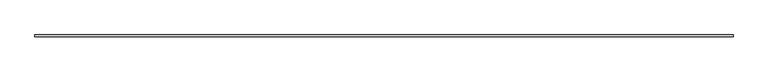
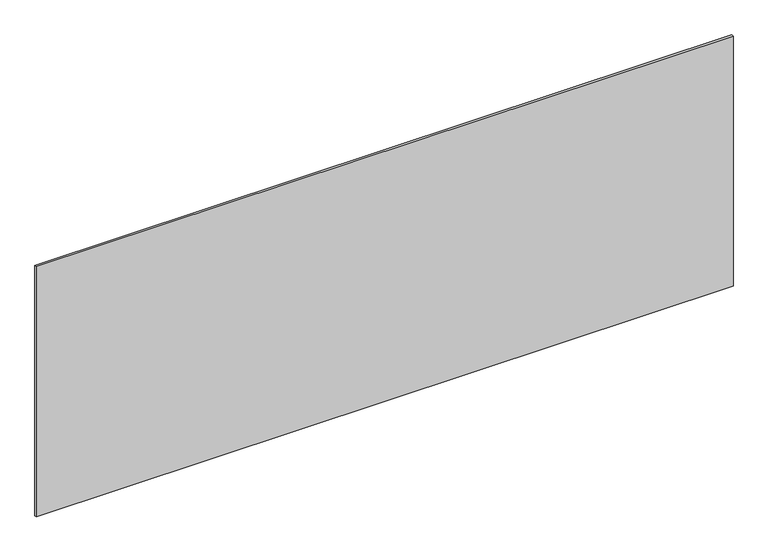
"""IFC4 building model written with IfcOpenShell, lengths in millimetres: plate geometry, システム パネル : 標準."""

from ifc_helpers import new_model, si_unit, origin, origin_with_axes, place, context, project, spatial, polyline, outline, extrude, source, transform, mapped, element, save


def plate_bf9f031a(model_context):
    return source(origin(), model_context, "Body", "SweptSolid", [
        extrude(outline(polyline([(1715.0, -5.0), (-1715.0, -5.0), (-1715.0, 5.0), (1715.0, 5.0), (1715.0, -5.0)])), origin_with_axes(), (0.0, 0.0, 1.0), 1302.8439899),
    ])


if __name__ == "__main__":
    model = new_model("IFC4")
    model_context = context("Model", 3, world=origin())
    ifc_project = project(units=[si_unit("LENGTHUNIT", "METRE", prefix="MILLI")], contexts=[model_context])
    site = spatial("IfcSite", under=ifc_project)
    building = spatial("IfcBuilding", under=site)
    placement = place(None, origin())
    plate_shape = plate_bf9f031a(model_context)
    element("IfcPlate", 1, ObjectType="システム パネル : 標準", at=placement, inside=building, context=model_context, shape_type="MappedRepresentation", body=[
        mapped(plate_shape, transform((0.0, 0.0, 0.0), x_axis=(1.0, 0.0, 0.0), y_axis=(0.0, 1.0, 0.0), z_axis=(0.0, 0.0, 1.0))),
    ])
    save(model, "model.ifc")
